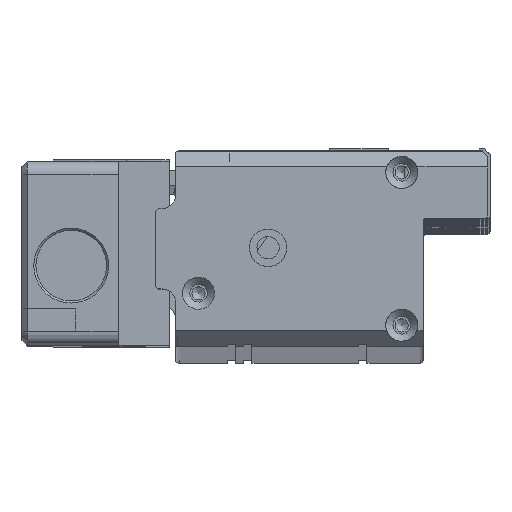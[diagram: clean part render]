
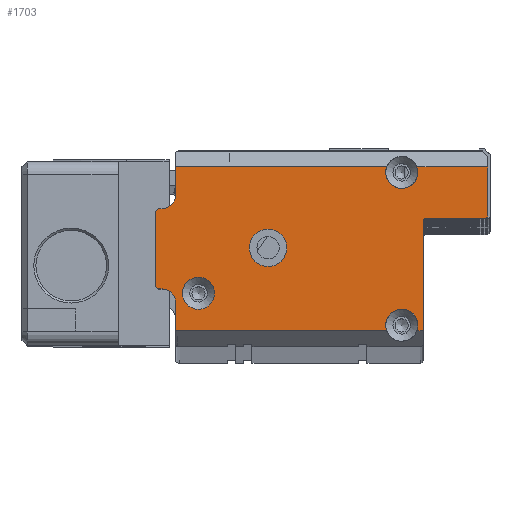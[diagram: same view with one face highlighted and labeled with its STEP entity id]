
A CAD part, top view. The second image highlights one B-rep face of the part: STEP entity #1703.
In plain terms, the highlighted planar face has unit normal (0, 0, 1).
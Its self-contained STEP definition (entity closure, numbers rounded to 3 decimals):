
#1703=ADVANCED_FACE('',(#7344,#7345,#7346),#2756,.T.);
#2756=PLANE('',#20751);
#3414=LINE('',#28667,#5378);
#3415=LINE('',#28669,#5379);
#3416=LINE('',#28673,#5380);
#3417=LINE('',#28677,#5381);
#3418=LINE('',#28679,#5382);
#3419=LINE('',#28683,#5383);
#3420=LINE('',#28685,#5384);
#3421=LINE('',#28689,#5385);
#3422=LINE('',#28693,#5386);
#3423=LINE('',#28697,#5387);
#3424=LINE('',#28701,#5388);
#3425=LINE('',#28703,#5389);
#5378=VECTOR('',#22731,1.);
#5379=VECTOR('',#22732,1.);
#5380=VECTOR('',#22735,1.);
#5381=VECTOR('',#22738,1.);
#5382=VECTOR('',#22739,1.);
#5383=VECTOR('',#22742,1.);
#5384=VECTOR('',#22743,1.);
#5385=VECTOR('',#22746,1.);
#5386=VECTOR('',#22749,1.);
#5387=VECTOR('',#22752,1.);
#5388=VECTOR('',#22755,1.);
#5389=VECTOR('',#22756,1.);
#7344=FACE_BOUND('',#7660,.T.);
#7345=FACE_BOUND('',#7661,.T.);
#7346=FACE_BOUND('',#7662,.T.);
#7660=EDGE_LOOP('',(#8898));
#7661=EDGE_LOOP('',(#8899,#8900,#8901,#8902,#8903,#8904,#8905,#8906,#8907,
#8908,#8909,#8910,#8911,#8912,#8913,#8914,#8915,#8916,#8917,#8918));
#7662=EDGE_LOOP('',(#8919));
#8898=ORIENTED_EDGE('',*,*,#16957,.T.);
#8899=ORIENTED_EDGE('',*,*,#16958,.T.);
#8900=ORIENTED_EDGE('',*,*,#16959,.T.);
#8901=ORIENTED_EDGE('',*,*,#16960,.T.);
#8902=ORIENTED_EDGE('',*,*,#16961,.T.);
#8903=ORIENTED_EDGE('',*,*,#16962,.T.);
#8904=ORIENTED_EDGE('',*,*,#16963,.T.);
#8905=ORIENTED_EDGE('',*,*,#16964,.T.);
#8906=ORIENTED_EDGE('',*,*,#16965,.T.);
#8907=ORIENTED_EDGE('',*,*,#16966,.T.);
#8908=ORIENTED_EDGE('',*,*,#16967,.T.);
#8909=ORIENTED_EDGE('',*,*,#16968,.T.);
#8910=ORIENTED_EDGE('',*,*,#16969,.T.);
#8911=ORIENTED_EDGE('',*,*,#16970,.T.);
#8912=ORIENTED_EDGE('',*,*,#16971,.T.);
#8913=ORIENTED_EDGE('',*,*,#16972,.T.);
#8914=ORIENTED_EDGE('',*,*,#16973,.T.);
#8915=ORIENTED_EDGE('',*,*,#16974,.T.);
#8916=ORIENTED_EDGE('',*,*,#16975,.T.);
#8917=ORIENTED_EDGE('',*,*,#16976,.T.);
#8918=ORIENTED_EDGE('',*,*,#16977,.T.);
#8919=ORIENTED_EDGE('',*,*,#16978,.T.);
#14914=VERTEX_POINT('',#28663);
#14915=VERTEX_POINT('',#28665);
#14916=VERTEX_POINT('',#28666);
#14917=VERTEX_POINT('',#28668);
#14918=VERTEX_POINT('',#28670);
#14919=VERTEX_POINT('',#28672);
#14920=VERTEX_POINT('',#28674);
#14921=VERTEX_POINT('',#28676);
#14922=VERTEX_POINT('',#28678);
#14923=VERTEX_POINT('',#28680);
#14924=VERTEX_POINT('',#28682);
#14925=VERTEX_POINT('',#28684);
#14926=VERTEX_POINT('',#28686);
#14927=VERTEX_POINT('',#28688);
#14928=VERTEX_POINT('',#28690);
#14929=VERTEX_POINT('',#28692);
#14930=VERTEX_POINT('',#28694);
#14931=VERTEX_POINT('',#28696);
#14932=VERTEX_POINT('',#28698);
#14933=VERTEX_POINT('',#28700);
#14934=VERTEX_POINT('',#28702);
#14935=VERTEX_POINT('',#28705);
#16957=EDGE_CURVE('',#14914,#14914,#19965,.T.);
#16958=EDGE_CURVE('',#14915,#14916,#19966,.T.);
#16959=EDGE_CURVE('',#14916,#14917,#3414,.T.);
#16960=EDGE_CURVE('',#14917,#14918,#3415,.T.);
#16961=EDGE_CURVE('',#14918,#14919,#19967,.T.);
#16962=EDGE_CURVE('',#14919,#14920,#3416,.T.);
#16963=EDGE_CURVE('',#14920,#14921,#19968,.T.);
#16964=EDGE_CURVE('',#14921,#14922,#3417,.T.);
#16965=EDGE_CURVE('',#14922,#14923,#3418,.T.);
#16966=EDGE_CURVE('',#14923,#14924,#19969,.T.);
#16967=EDGE_CURVE('',#14924,#14925,#3419,.T.);
#16968=EDGE_CURVE('',#14925,#14926,#3420,.T.);
#16969=EDGE_CURVE('',#14926,#14927,#19970,.T.);
#16970=EDGE_CURVE('',#14927,#14928,#3421,.T.);
#16971=EDGE_CURVE('',#14928,#14929,#19971,.T.);
#16972=EDGE_CURVE('',#14929,#14930,#3422,.T.);
#16973=EDGE_CURVE('',#14930,#14931,#19972,.T.);
#16974=EDGE_CURVE('',#14931,#14932,#3423,.T.);
#16975=EDGE_CURVE('',#14932,#14933,#19973,.T.);
#16976=EDGE_CURVE('',#14933,#14934,#3424,.T.);
#16977=EDGE_CURVE('',#14934,#14915,#3425,.T.);
#16978=EDGE_CURVE('',#14935,#14935,#19974,.T.);
#19965=CIRCLE('',#20741,3.);
#19966=CIRCLE('',#20742,3.);
#19967=CIRCLE('',#20743,0.5);
#19968=CIRCLE('',#20744,0.5);
#19969=CIRCLE('',#20745,3.);
#19970=CIRCLE('',#20746,2.5);
#19971=CIRCLE('',#20747,0.5);
#19972=CIRCLE('',#20748,0.5);
#19973=CIRCLE('',#20749,2.5);
#19974=CIRCLE('',#20750,3.5);
#20741=AXIS2_PLACEMENT_3D('',#28662,#22727,#22728);
#20742=AXIS2_PLACEMENT_3D('',#28664,#22729,#22730);
#20743=AXIS2_PLACEMENT_3D('',#28671,#22733,#22734);
#20744=AXIS2_PLACEMENT_3D('',#28675,#22736,#22737);
#20745=AXIS2_PLACEMENT_3D('',#28681,#22740,#22741);
#20746=AXIS2_PLACEMENT_3D('',#28687,#22744,#22745);
#20747=AXIS2_PLACEMENT_3D('',#28691,#22747,#22748);
#20748=AXIS2_PLACEMENT_3D('',#28695,#22750,#22751);
#20749=AXIS2_PLACEMENT_3D('',#28699,#22753,#22754);
#20750=AXIS2_PLACEMENT_3D('',#28704,#22757,#22758);
#20751=AXIS2_PLACEMENT_3D('',#28706,#22759,#22760);
#22727=DIRECTION('',(0.,0.,-1.));
#22728=DIRECTION('',(-1.,0.,0.));
#22729=DIRECTION('',(0.,0.,-1.));
#22730=DIRECTION('',(-1.,0.,0.));
#22731=DIRECTION('',(1.,0.,0.));
#22732=DIRECTION('',(0.,1.,0.));
#22733=DIRECTION('',(0.,0.,-1.));
#22734=DIRECTION('',(1.,0.,0.));
#22735=DIRECTION('',(1.,0.,0.));
#22736=DIRECTION('',(0.,0.,1.));
#22737=DIRECTION('',(1.,0.,0.));
#22738=DIRECTION('',(0.,1.,0.));
#22739=DIRECTION('',(-1.,0.,0.));
#22740=DIRECTION('',(0.,0.,-1.));
#22741=DIRECTION('',(-1.,0.,0.));
#22742=DIRECTION('',(-1.,0.,0.));
#22743=DIRECTION('',(0.,-1.,0.));
#22744=DIRECTION('',(0.,0.,-1.));
#22745=DIRECTION('',(1.,0.,0.));
#22746=DIRECTION('',(-1.,0.,0.));
#22747=DIRECTION('',(0.,0.,1.));
#22748=DIRECTION('',(1.,0.,0.));
#22749=DIRECTION('',(0.,-1.,0.));
#22750=DIRECTION('',(0.,0.,1.));
#22751=DIRECTION('',(1.,0.,0.));
#22752=DIRECTION('',(1.,0.,0.));
#22753=DIRECTION('',(0.,0.,-1.));
#22754=DIRECTION('',(1.,0.,0.));
#22755=DIRECTION('',(0.,-1.,0.));
#22756=DIRECTION('',(1.,0.,0.));
#22757=DIRECTION('',(0.,0.,-1.));
#22758=DIRECTION('',(-1.,0.,0.));
#22759=DIRECTION('',(0.,0.,1.));
#22760=DIRECTION('',(-1.,0.,0.));
#28662=CARTESIAN_POINT('',(8.,-26.6,8.));
#28663=CARTESIAN_POINT('',(5.,-26.6,8.));
#28664=CARTESIAN_POINT('',(46.,-32.6,8.));
#28665=CARTESIAN_POINT('',(43.172,-33.6,8.));
#28666=CARTESIAN_POINT('',(48.828,-33.6,8.));
#28667=CARTESIAN_POINT('',(50.,-33.6,8.));
#28668=CARTESIAN_POINT('',(50.,-33.6,8.));
#28669=CARTESIAN_POINT('',(50.,-36.6,8.));
#28670=CARTESIAN_POINT('',(50.,-13.1,8.));
#28671=CARTESIAN_POINT('',(50.5,-13.1,8.));
#28672=CARTESIAN_POINT('',(50.5,-12.6,8.));
#28673=CARTESIAN_POINT('',(50.,-12.6,8.));
#28674=CARTESIAN_POINT('',(61.6,-12.6,8.));
#28675=CARTESIAN_POINT('',(61.6,-12.1,8.));
#28676=CARTESIAN_POINT('',(62.1,-12.1,8.));
#28677=CARTESIAN_POINT('',(62.1,-12.6,8.));
#28678=CARTESIAN_POINT('',(62.1,-3.,8.));
#28679=CARTESIAN_POINT('',(3.7,-3.,8.));
#28680=CARTESIAN_POINT('',(48.828,-3.,8.));
#28681=CARTESIAN_POINT('',(46.,-4.,8.));
#28682=CARTESIAN_POINT('',(43.172,-3.,8.));
#28683=CARTESIAN_POINT('',(3.7,-3.,8.));
#28684=CARTESIAN_POINT('',(3.7,-3.,8.));
#28685=CARTESIAN_POINT('',(3.7,0.,8.));
#28686=CARTESIAN_POINT('',(3.7,-8.3,8.));
#28687=CARTESIAN_POINT('',(1.2,-8.3,8.));
#28688=CARTESIAN_POINT('',(1.2,-10.8,8.));
#28689=CARTESIAN_POINT('',(3.7,-10.8,8.));
#28690=CARTESIAN_POINT('',(0.5,-10.8,8.));
#28691=CARTESIAN_POINT('',(0.5,-11.3,8.));
#28692=CARTESIAN_POINT('',(0.,-11.3,8.));
#28693=CARTESIAN_POINT('',(0.,-10.8,8.));
#28694=CARTESIAN_POINT('',(0.,-25.3,8.));
#28695=CARTESIAN_POINT('',(0.5,-25.3,8.));
#28696=CARTESIAN_POINT('',(0.5,-25.8,8.));
#28697=CARTESIAN_POINT('',(0.,-25.8,8.));
#28698=CARTESIAN_POINT('',(1.2,-25.8,8.));
#28699=CARTESIAN_POINT('',(1.2,-28.3,8.));
#28700=CARTESIAN_POINT('',(3.7,-28.3,8.));
#28701=CARTESIAN_POINT('',(3.7,-25.8,8.));
#28702=CARTESIAN_POINT('',(3.7,-33.6,8.));
#28703=CARTESIAN_POINT('',(50.,-33.6,8.));
#28704=CARTESIAN_POINT('',(21.,-18.1,8.));
#28705=CARTESIAN_POINT('',(17.5,-18.1,8.));
#28706=CARTESIAN_POINT('',(0.,0.,8.));
